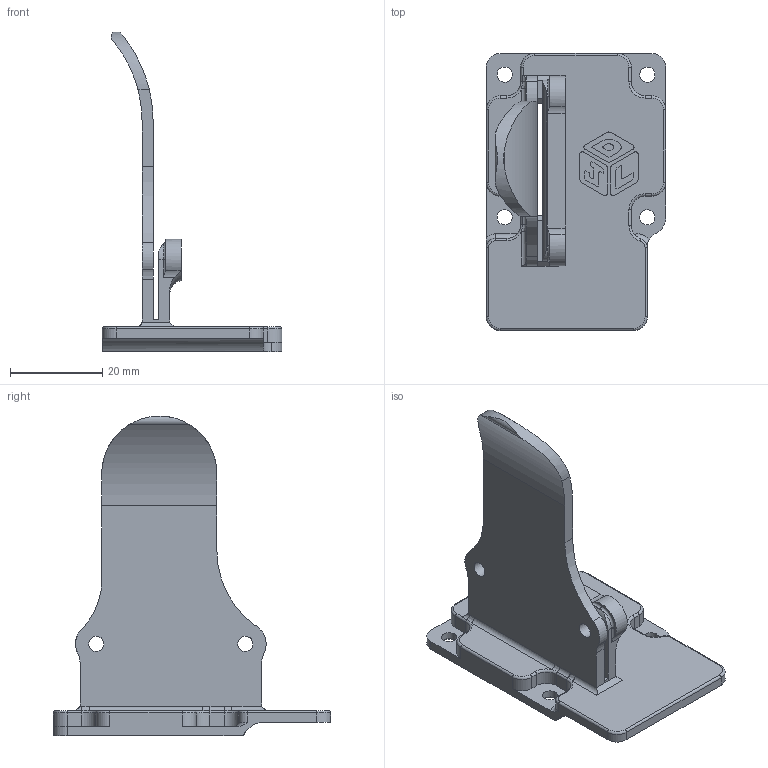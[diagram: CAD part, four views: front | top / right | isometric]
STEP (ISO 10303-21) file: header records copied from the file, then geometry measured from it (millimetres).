
FILE_DESCRIPTION(('CATIA V5 STEP Exchange'),'2;1');
FILE_NAME('E:\Dropbox\3D Printer Fan Duct Designs\1.) Artillery Sidewinder X1\3D Models\5015 Double Ducts\VOLCANO\BONUS_CLIP_DOUBLE FAN\COMMON PARTS ALL EXTRUDERS\BRACKET X ASSY_Nut.stp','2022-01-09T21:57:24+00:00',('none'),('none'),'CATIA Version 5 Release 20 SP 1 (IN-10)','CATIA V5 STEP AP214','none');
FILE_SCHEMA(('AUTOMOTIVE_DESIGN { 1 0 10303 214 1 1 1 1 }'));
Length unit declared in the file: millimetre
Products named in the file (1): FISSACAVO_ASSE_X
Bounding box: 39 x 60.2 x 69.5 mm (x, y, z)
Volume: 15530.6 mm3; surface area: 11493.8 mm2
Topology: 1 solids, 1 shells, 274 faces, 729 edges, 463 vertices
Faces by surface type: plane 132, cylinder 96, torus 24, extrusion 11, cone 8, bspline 3
Entity records: 8553 total; most frequent: CARTESIAN_POINT 2035, ORIENTED_EDGE 1458, DIRECTION 1110, EDGE_CURVE 729, VERTEX_POINT 463, AXIS2_PLACEMENT_3D 447, VECTOR 429, LINE 418
